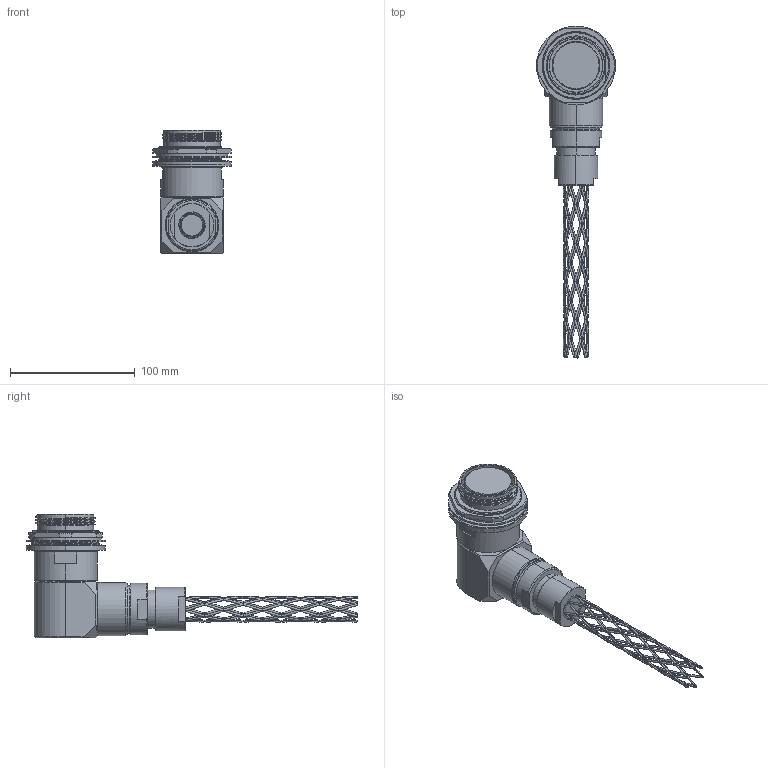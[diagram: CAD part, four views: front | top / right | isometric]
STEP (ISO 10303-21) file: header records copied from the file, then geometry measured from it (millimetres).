
FILE_DESCRIPTION (( 'STEP AP214' ), '1' );
FILE_NAME ('QLINK90-RJTX-29XX-GXXX.STEP', '2025-10-23T14:59:56', ( '' ), ( '' ), 'SwSTEP 2.0', 'SolidWorks 2024', '' );
FILE_SCHEMA (( 'AUTOMOTIVE_DESIGN' ));
Length unit declared in the file: millimetre
Products named in the file (1): QLINK90-RJTX-29XX-GXXX
Bounding box: 63.25 x 265.88 x 99.31 mm (x, y, z)
Volume: 293426.8 mm3; surface area: 55705.4 mm2
Topology: 2 solids, 4 shells, 511 faces, 1405 edges, 817 vertices
Faces by surface type: bspline 255, cylinder 93, plane 86, cone 54, torus 23
Entity records: 127604 total; most frequent: CARTESIAN_POINT 117576, ORIENTED_EDGE 2810, EDGE_CURVE 1405, DIRECTION 1394, VERTEX_POINT 817, AXIS2_PLACEMENT_3D 579, EDGE_LOOP 542, ADVANCED_FACE 511
